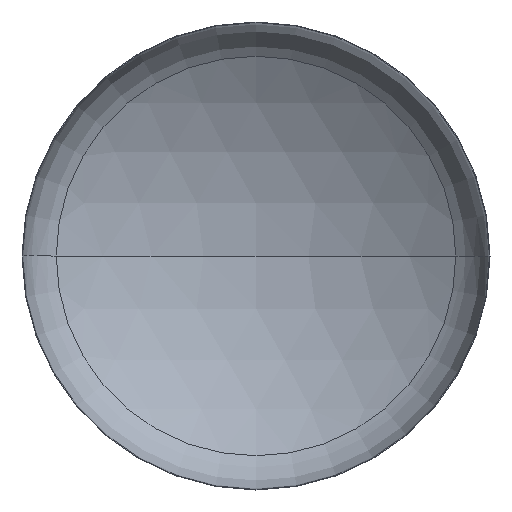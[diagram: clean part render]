
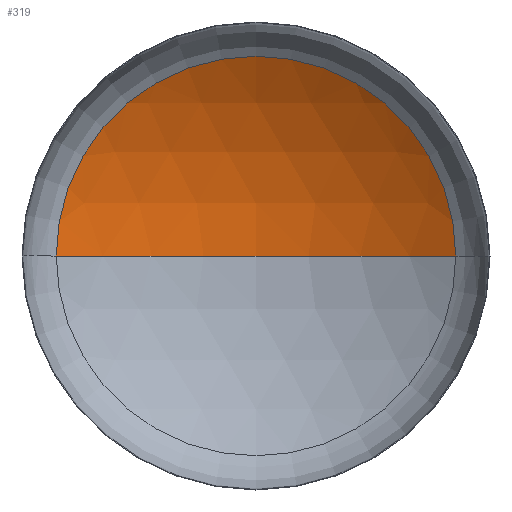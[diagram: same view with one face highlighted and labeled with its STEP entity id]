
A CAD part, front view. The second image highlights one B-rep face of the part: STEP entity #319.
In plain terms, the highlighted spherical face has radius 5600 mm.
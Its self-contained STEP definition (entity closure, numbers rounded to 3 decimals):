
#12 = AXIS2_PLACEMENT_3D ( 'NONE', #88, #391, #338 ) ;
#48 = AXIS2_PLACEMENT_3D ( 'NONE', #135, #144, #138 ) ;
#57 = AXIS2_PLACEMENT_3D ( 'NONE', #251, #250, #169 ) ;
#58 = AXIS2_PLACEMENT_3D ( 'NONE', #247, #128, #147 ) ;
#79 = EDGE_LOOP ( 'NONE', ( #160, #402, #84 ) ) ;
#83 = CARTESIAN_POINT ( 'NONE',  ( 0., 1802.35, 0. ) ) ;
#84 = ORIENTED_EDGE ( 'NONE', *, *, #104, .T. ) ;
#88 = CARTESIAN_POINT ( 'NONE',  ( 0., -3797.65, 0. ) ) ;
#104 = EDGE_CURVE ( 'NONE', #367, #347, #194, .T. ) ;
#105 = EDGE_CURVE ( 'NONE', #305, #367, #272, .T. ) ;
#109 = EDGE_CURVE ( 'NONE', #305, #347, #263, .T. ) ;
#128 = DIRECTION ( 'NONE',  ( 0., -1., 0. ) ) ;
#135 = CARTESIAN_POINT ( 'NONE',  ( 0., -3797.65, 0. ) ) ;
#138 = DIRECTION ( 'NONE',  ( 1., 0., 0. ) ) ;
#144 = DIRECTION ( 'NONE',  ( 0., 0., 1. ) ) ;
#147 = DIRECTION ( 'NONE',  ( 1., 0., 0. ) ) ;
#149 = SPHERICAL_SURFACE ( 'NONE', #12, 5600. ) ;
#160 = ORIENTED_EDGE ( 'NONE', *, *, #109, .F. ) ;
#169 = DIRECTION ( 'NONE',  ( -1., 0., 0. ) ) ;
#194 = CIRCLE ( 'NONE', #58, 2988.319 ) ;
#224 = FACE_OUTER_BOUND ( 'NONE', #79, .T. ) ;
#247 = CARTESIAN_POINT ( 'NONE',  ( 0., 938.377, 0. ) ) ;
#250 = DIRECTION ( 'NONE',  ( 0., 0., -1. ) ) ;
#251 = CARTESIAN_POINT ( 'NONE',  ( 0., -3797.65, 0. ) ) ;
#254 = CARTESIAN_POINT ( 'NONE',  ( -2988.319, 938.377, 0. ) ) ;
#263 = CIRCLE ( 'NONE', #48, 5600. ) ;
#272 = CIRCLE ( 'NONE', #57, 5600. ) ;
#296 = CARTESIAN_POINT ( 'NONE',  ( 2988.319, 938.377, 0. ) ) ;
#305 = VERTEX_POINT ( 'NONE', #83 ) ;
#319 = ADVANCED_FACE ( 'NONE', ( #224 ), #149, .F. ) ;
#338 = DIRECTION ( 'NONE',  ( -1., 0., 0. ) ) ;
#347 = VERTEX_POINT ( 'NONE', #254 ) ;
#367 = VERTEX_POINT ( 'NONE', #296 ) ;
#391 = DIRECTION ( 'NONE',  ( 0., 0., -1. ) ) ;
#402 = ORIENTED_EDGE ( 'NONE', *, *, #105, .T. ) ;
